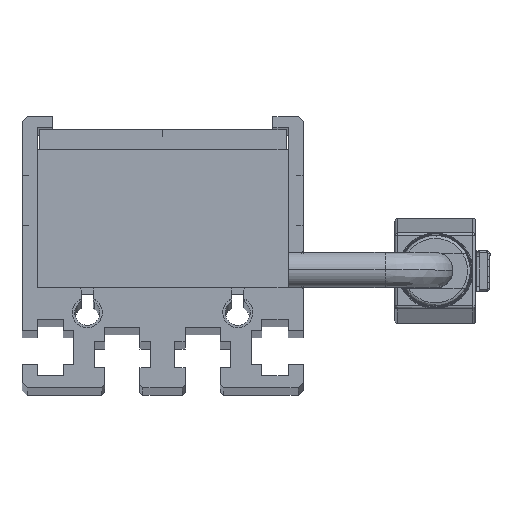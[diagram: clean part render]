
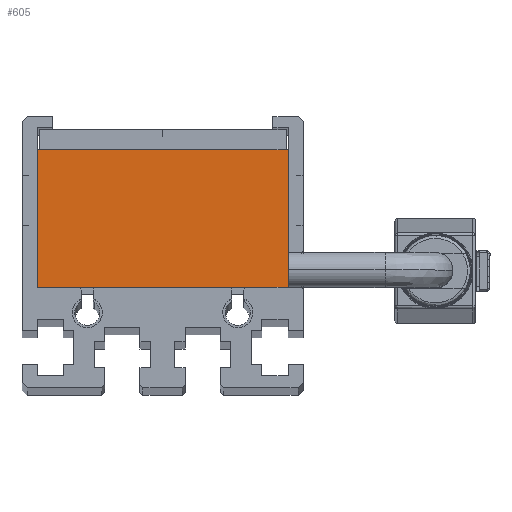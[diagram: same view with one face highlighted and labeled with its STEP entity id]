
A CAD part, top view. The second image highlights one B-rep face of the part: STEP entity #605.
In plain terms, the highlighted planar face has unit normal (0, 0, 1).
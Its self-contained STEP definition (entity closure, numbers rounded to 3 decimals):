
#526 = EDGE_LOOP ( 'NONE', ( #11248, #4490, #6489, #758 ) ) ;
#566 = VECTOR ( 'NONE', #8707, 1000. ) ;
#605 = ADVANCED_FACE ( 'NONE', ( #12842 ), #17024, .F. ) ;
#674 = DIRECTION ( 'NONE',  ( -1., 0., 0. ) ) ;
#758 = ORIENTED_EDGE ( 'NONE', *, *, #13955, .T. ) ;
#1768 = VERTEX_POINT ( 'NONE', #10113 ) ;
#3549 = CARTESIAN_POINT ( 'NONE',  ( 12.5, 13.7, 208.5 ) ) ;
#3554 = CARTESIAN_POINT ( 'NONE',  ( 12.5, 13.7, 208.5 ) ) ;
#4383 = CARTESIAN_POINT ( 'NONE',  ( -12.5, 0., 208.5 ) ) ;
#4490 = ORIENTED_EDGE ( 'NONE', *, *, #4529, .F. ) ;
#4529 = EDGE_CURVE ( 'NONE', #16174, #9359, #12690, .T. ) ;
#6489 = ORIENTED_EDGE ( 'NONE', *, *, #14869, .F. ) ;
#8707 = DIRECTION ( 'NONE',  ( -1., 0., 0. ) ) ;
#9359 = VERTEX_POINT ( 'NONE', #4383 ) ;
#9813 = VECTOR ( 'NONE', #14336, 1000. ) ;
#10113 = CARTESIAN_POINT ( 'NONE',  ( -12.5, 13.7, 208.5 ) ) ;
#10256 = LINE ( 'NONE', #3554, #9813 ) ;
#10361 = DIRECTION ( 'NONE',  ( 0., 0., -1. ) ) ;
#11248 = ORIENTED_EDGE ( 'NONE', *, *, #16217, .T. ) ;
#11261 = LINE ( 'NONE', #13042, #12487 ) ;
#11350 = CARTESIAN_POINT ( 'NONE',  ( 12.5, 13.7, 208.5 ) ) ;
#12487 = VECTOR ( 'NONE', #14391, 1000. ) ;
#12690 = LINE ( 'NONE', #12865, #566 ) ;
#12842 = FACE_OUTER_BOUND ( 'NONE', #526, .T. ) ;
#12865 = CARTESIAN_POINT ( 'NONE',  ( 12.5, 0., 208.5 ) ) ;
#12921 = AXIS2_PLACEMENT_3D ( 'NONE', #3549, #10361, #12926 ) ;
#12926 = DIRECTION ( 'NONE',  ( -1., 0., 0. ) ) ;
#13042 = CARTESIAN_POINT ( 'NONE',  ( -12.5, 13.7, 208.5 ) ) ;
#13581 = LINE ( 'NONE', #11350, #16068 ) ;
#13955 = EDGE_CURVE ( 'NONE', #14595, #1768, #13581, .T. ) ;
#14336 = DIRECTION ( 'NONE',  ( 0., -1., 0. ) ) ;
#14391 = DIRECTION ( 'NONE',  ( 0., -1., 0. ) ) ;
#14595 = VERTEX_POINT ( 'NONE', #17051 ) ;
#14869 = EDGE_CURVE ( 'NONE', #14595, #16174, #10256, .T. ) ;
#15479 = CARTESIAN_POINT ( 'NONE',  ( 12.5, 0., 208.5 ) ) ;
#16068 = VECTOR ( 'NONE', #674, 1000. ) ;
#16174 = VERTEX_POINT ( 'NONE', #15479 ) ;
#16217 = EDGE_CURVE ( 'NONE', #1768, #9359, #11261, .T. ) ;
#17024 = PLANE ( 'NONE',  #12921 ) ;
#17051 = CARTESIAN_POINT ( 'NONE',  ( 12.5, 13.7, 208.5 ) ) ;
